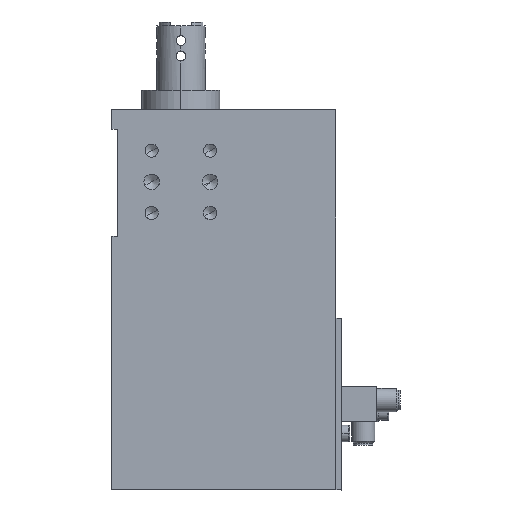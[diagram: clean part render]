
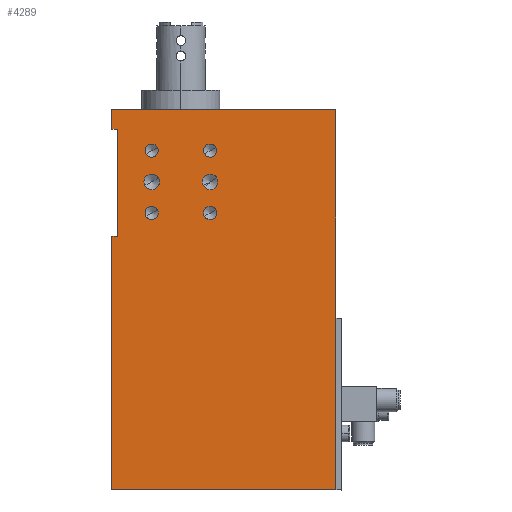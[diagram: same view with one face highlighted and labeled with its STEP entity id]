
A CAD part, top view. The second image highlights one B-rep face of the part: STEP entity #4289.
In plain terms, the highlighted planar face has unit normal (0, 0, 1).
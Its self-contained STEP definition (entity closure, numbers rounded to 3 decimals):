
#1020=CARTESIAN_POINT('Line Origine',(79.5,-151.,22.5)) ;
#1024=CARTESIAN_POINT('Vertex',(79.5,-107.,22.5)) ;
#1026=CARTESIAN_POINT('Vertex',(79.5,-195.,22.5)) ;
#3704=CARTESIAN_POINT('Vertex',(79.5,0.,22.5)) ;
#3707=CARTESIAN_POINT('Line Origine',(79.5,-53.5,22.5)) ;
#3922=CARTESIAN_POINT('Vertex',(-35.5,0.,22.5)) ;
#3925=CARTESIAN_POINT('Line Origine',(22.,0.,22.5)) ;
#4125=CARTESIAN_POINT('Axis2P3D Location',(-35.5,-195.,22.5)) ;
#4130=CARTESIAN_POINT('Line Origine',(-34.,-10.,22.5)) ;
#4134=CARTESIAN_POINT('Vertex',(-35.5,-10.,22.5)) ;
#4136=CARTESIAN_POINT('Vertex',(-32.5,-10.,22.5)) ;
#4139=CARTESIAN_POINT('Line Origine',(-32.5,-37.5,22.5)) ;
#4143=CARTESIAN_POINT('Vertex',(-32.5,-65.,22.5)) ;
#4146=CARTESIAN_POINT('Line Origine',(-34.,-65.,22.5)) ;
#4150=CARTESIAN_POINT('Vertex',(-35.5,-65.,22.5)) ;
#4153=CARTESIAN_POINT('Line Origine',(-35.5,-130.,22.5)) ;
#4157=CARTESIAN_POINT('Vertex',(-35.5,-195.,22.5)) ;
#4160=CARTESIAN_POINT('Line Origine',(22.,-195.,22.5)) ;
#4165=CARTESIAN_POINT('Line Origine',(-35.5,-5.,22.5)) ;
#4181=CARTESIAN_POINT('Axis2P3D Location',(-15.,-21.,22.5)) ;
#4185=CARTESIAN_POINT('Vertex',(-15.,-17.6,22.5)) ;
#4187=CARTESIAN_POINT('Vertex',(-15.,-24.4,22.5)) ;
#4190=CARTESIAN_POINT('Axis2P3D Location',(-15.,-21.,22.5)) ;
#4199=CARTESIAN_POINT('Axis2P3D Location',(-15.,-53.,22.5)) ;
#4203=CARTESIAN_POINT('Vertex',(-15.,-49.6,22.5)) ;
#4205=CARTESIAN_POINT('Vertex',(-15.,-56.4,22.5)) ;
#4208=CARTESIAN_POINT('Axis2P3D Location',(-15.,-53.,22.5)) ;
#4217=CARTESIAN_POINT('Axis2P3D Location',(-15.,-37.,22.5)) ;
#4221=CARTESIAN_POINT('Vertex',(-15.,-33.,22.5)) ;
#4223=CARTESIAN_POINT('Vertex',(-15.,-41.,22.5)) ;
#4226=CARTESIAN_POINT('Axis2P3D Location',(-15.,-37.,22.5)) ;
#4235=CARTESIAN_POINT('Axis2P3D Location',(15.,-21.,22.5)) ;
#4239=CARTESIAN_POINT('Vertex',(15.,-17.6,22.5)) ;
#4241=CARTESIAN_POINT('Vertex',(15.,-24.4,22.5)) ;
#4244=CARTESIAN_POINT('Axis2P3D Location',(15.,-21.,22.5)) ;
#4253=CARTESIAN_POINT('Axis2P3D Location',(15.,-53.,22.5)) ;
#4257=CARTESIAN_POINT('Vertex',(15.,-49.6,22.5)) ;
#4259=CARTESIAN_POINT('Vertex',(15.,-56.4,22.5)) ;
#4262=CARTESIAN_POINT('Axis2P3D Location',(15.,-53.,22.5)) ;
#4271=CARTESIAN_POINT('Axis2P3D Location',(15.,-37.,22.5)) ;
#4275=CARTESIAN_POINT('Vertex',(15.,-33.,22.5)) ;
#4277=CARTESIAN_POINT('Vertex',(15.,-41.,22.5)) ;
#4280=CARTESIAN_POINT('Axis2P3D Location',(15.,-37.,22.5)) ;
#1021=DIRECTION('Vector Direction',(0.,1.,0.)) ;
#3708=DIRECTION('Vector Direction',(0.,1.,0.)) ;
#3926=DIRECTION('Vector Direction',(1.,0.,0.)) ;
#4126=DIRECTION('Axis2P3D Direction',(0.,0.,-1.)) ;
#4127=DIRECTION('Axis2P3D XDirection',(0.,1.,0.)) ;
#4131=DIRECTION('Vector Direction',(1.,0.,0.)) ;
#4140=DIRECTION('Vector Direction',(0.,1.,0.)) ;
#4147=DIRECTION('Vector Direction',(1.,0.,0.)) ;
#4154=DIRECTION('Vector Direction',(0.,1.,0.)) ;
#4161=DIRECTION('Vector Direction',(1.,0.,0.)) ;
#4166=DIRECTION('Vector Direction',(0.,1.,0.)) ;
#4182=DIRECTION('Axis2P3D Direction',(0.,0.,-1.)) ;
#4191=DIRECTION('Axis2P3D Direction',(0.,0.,-1.)) ;
#4200=DIRECTION('Axis2P3D Direction',(0.,0.,-1.)) ;
#4209=DIRECTION('Axis2P3D Direction',(0.,0.,-1.)) ;
#4218=DIRECTION('Axis2P3D Direction',(0.,0.,-1.)) ;
#4227=DIRECTION('Axis2P3D Direction',(0.,0.,-1.)) ;
#4236=DIRECTION('Axis2P3D Direction',(0.,0.,-1.)) ;
#4245=DIRECTION('Axis2P3D Direction',(0.,0.,-1.)) ;
#4254=DIRECTION('Axis2P3D Direction',(0.,0.,-1.)) ;
#4263=DIRECTION('Axis2P3D Direction',(0.,0.,-1.)) ;
#4272=DIRECTION('Axis2P3D Direction',(0.,0.,-1.)) ;
#4281=DIRECTION('Axis2P3D Direction',(0.,0.,-1.)) ;
#4128=AXIS2_PLACEMENT_3D('Plane Axis2P3D',#4125,#4126,#4127) ;
#4183=AXIS2_PLACEMENT_3D('Circle Axis2P3D',#4181,#4182,$) ;
#4192=AXIS2_PLACEMENT_3D('Circle Axis2P3D',#4190,#4191,$) ;
#4201=AXIS2_PLACEMENT_3D('Circle Axis2P3D',#4199,#4200,$) ;
#4210=AXIS2_PLACEMENT_3D('Circle Axis2P3D',#4208,#4209,$) ;
#4219=AXIS2_PLACEMENT_3D('Circle Axis2P3D',#4217,#4218,$) ;
#4228=AXIS2_PLACEMENT_3D('Circle Axis2P3D',#4226,#4227,$) ;
#4237=AXIS2_PLACEMENT_3D('Circle Axis2P3D',#4235,#4236,$) ;
#4246=AXIS2_PLACEMENT_3D('Circle Axis2P3D',#4244,#4245,$) ;
#4255=AXIS2_PLACEMENT_3D('Circle Axis2P3D',#4253,#4254,$) ;
#4264=AXIS2_PLACEMENT_3D('Circle Axis2P3D',#4262,#4263,$) ;
#4273=AXIS2_PLACEMENT_3D('Circle Axis2P3D',#4271,#4272,$) ;
#4282=AXIS2_PLACEMENT_3D('Circle Axis2P3D',#4280,#4281,$) ;
#4171=ORIENTED_EDGE('',*,*,#4138,.T.) ;
#4172=ORIENTED_EDGE('',*,*,#4145,.T.) ;
#4173=ORIENTED_EDGE('',*,*,#4152,.F.) ;
#4174=ORIENTED_EDGE('',*,*,#4159,.T.) ;
#4175=ORIENTED_EDGE('',*,*,#4164,.T.) ;
#4176=ORIENTED_EDGE('',*,*,#1028,.F.) ;
#4177=ORIENTED_EDGE('',*,*,#3711,.F.) ;
#4178=ORIENTED_EDGE('',*,*,#3929,.F.) ;
#4179=ORIENTED_EDGE('',*,*,#4169,.T.) ;
#4196=ORIENTED_EDGE('',*,*,#4189,.F.) ;
#4197=ORIENTED_EDGE('',*,*,#4194,.F.) ;
#4214=ORIENTED_EDGE('',*,*,#4207,.F.) ;
#4215=ORIENTED_EDGE('',*,*,#4212,.F.) ;
#4232=ORIENTED_EDGE('',*,*,#4225,.F.) ;
#4233=ORIENTED_EDGE('',*,*,#4230,.F.) ;
#4250=ORIENTED_EDGE('',*,*,#4243,.F.) ;
#4251=ORIENTED_EDGE('',*,*,#4248,.F.) ;
#4268=ORIENTED_EDGE('',*,*,#4261,.F.) ;
#4269=ORIENTED_EDGE('',*,*,#4266,.F.) ;
#4286=ORIENTED_EDGE('',*,*,#4279,.F.) ;
#4287=ORIENTED_EDGE('',*,*,#4284,.F.) ;
#4198=FACE_BOUND('',#4195,.T.) ;
#4216=FACE_BOUND('',#4213,.T.) ;
#4234=FACE_BOUND('',#4231,.T.) ;
#4252=FACE_BOUND('',#4249,.T.) ;
#4270=FACE_BOUND('',#4267,.T.) ;
#4288=FACE_BOUND('',#4285,.T.) ;
#1022=VECTOR('Line Direction',#1021,1.) ;
#3709=VECTOR('Line Direction',#3708,1.) ;
#3927=VECTOR('Line Direction',#3926,1.) ;
#4132=VECTOR('Line Direction',#4131,1.) ;
#4141=VECTOR('Line Direction',#4140,1.) ;
#4148=VECTOR('Line Direction',#4147,1.) ;
#4155=VECTOR('Line Direction',#4154,1.) ;
#4162=VECTOR('Line Direction',#4161,1.) ;
#4167=VECTOR('Line Direction',#4166,1.) ;
#4289=ADVANCED_FACE('PartBody',(#4180,#4198,#4216,#4234,#4252,#4270,#4288),#4129,.F.) ;
#4184=CIRCLE('generated circle',#4183,3.4) ;
#4193=CIRCLE('generated circle',#4192,3.4) ;
#4202=CIRCLE('generated circle',#4201,3.4) ;
#4211=CIRCLE('generated circle',#4210,3.4) ;
#4220=CIRCLE('generated circle',#4219,4.) ;
#4229=CIRCLE('generated circle',#4228,4.) ;
#4238=CIRCLE('generated circle',#4237,3.4) ;
#4247=CIRCLE('generated circle',#4246,3.4) ;
#4256=CIRCLE('generated circle',#4255,3.4) ;
#4265=CIRCLE('generated circle',#4264,3.4) ;
#4274=CIRCLE('generated circle',#4273,4.) ;
#4283=CIRCLE('generated circle',#4282,4.) ;
#1028=EDGE_CURVE('',#1025,#1027,#1023,.F.) ;
#3711=EDGE_CURVE('',#3705,#1025,#3710,.F.) ;
#3929=EDGE_CURVE('',#3923,#3705,#3928,.T.) ;
#4138=EDGE_CURVE('',#4135,#4137,#4133,.T.) ;
#4145=EDGE_CURVE('',#4137,#4144,#4142,.F.) ;
#4152=EDGE_CURVE('',#4151,#4144,#4149,.T.) ;
#4159=EDGE_CURVE('',#4151,#4158,#4156,.F.) ;
#4164=EDGE_CURVE('',#4158,#1027,#4163,.T.) ;
#4169=EDGE_CURVE('',#3923,#4135,#4168,.F.) ;
#4189=EDGE_CURVE('',#4186,#4188,#4184,.F.) ;
#4194=EDGE_CURVE('',#4188,#4186,#4193,.F.) ;
#4207=EDGE_CURVE('',#4204,#4206,#4202,.F.) ;
#4212=EDGE_CURVE('',#4206,#4204,#4211,.F.) ;
#4225=EDGE_CURVE('',#4222,#4224,#4220,.F.) ;
#4230=EDGE_CURVE('',#4224,#4222,#4229,.F.) ;
#4243=EDGE_CURVE('',#4240,#4242,#4238,.F.) ;
#4248=EDGE_CURVE('',#4242,#4240,#4247,.F.) ;
#4261=EDGE_CURVE('',#4258,#4260,#4256,.F.) ;
#4266=EDGE_CURVE('',#4260,#4258,#4265,.F.) ;
#4279=EDGE_CURVE('',#4276,#4278,#4274,.F.) ;
#4284=EDGE_CURVE('',#4278,#4276,#4283,.F.) ;
#4170=EDGE_LOOP('',(#4171,#4172,#4173,#4174,#4175,#4176,#4177,#4178,#4179)) ;
#4195=EDGE_LOOP('',(#4196,#4197)) ;
#4213=EDGE_LOOP('',(#4214,#4215)) ;
#4231=EDGE_LOOP('',(#4232,#4233)) ;
#4249=EDGE_LOOP('',(#4250,#4251)) ;
#4267=EDGE_LOOP('',(#4268,#4269)) ;
#4285=EDGE_LOOP('',(#4286,#4287)) ;
#4180=FACE_OUTER_BOUND('',#4170,.T.) ;
#1023=LINE('Line',#1020,#1022) ;
#3710=LINE('Line',#3707,#3709) ;
#3928=LINE('Line',#3925,#3927) ;
#4133=LINE('Line',#4130,#4132) ;
#4142=LINE('Line',#4139,#4141) ;
#4149=LINE('Line',#4146,#4148) ;
#4156=LINE('Line',#4153,#4155) ;
#4163=LINE('Line',#4160,#4162) ;
#4168=LINE('Line',#4165,#4167) ;
#4129=PLANE('Plane',#4128) ;
#1025=VERTEX_POINT('',#1024) ;
#1027=VERTEX_POINT('',#1026) ;
#3705=VERTEX_POINT('',#3704) ;
#3923=VERTEX_POINT('',#3922) ;
#4135=VERTEX_POINT('',#4134) ;
#4137=VERTEX_POINT('',#4136) ;
#4144=VERTEX_POINT('',#4143) ;
#4151=VERTEX_POINT('',#4150) ;
#4158=VERTEX_POINT('',#4157) ;
#4186=VERTEX_POINT('',#4185) ;
#4188=VERTEX_POINT('',#4187) ;
#4204=VERTEX_POINT('',#4203) ;
#4206=VERTEX_POINT('',#4205) ;
#4222=VERTEX_POINT('',#4221) ;
#4224=VERTEX_POINT('',#4223) ;
#4240=VERTEX_POINT('',#4239) ;
#4242=VERTEX_POINT('',#4241) ;
#4258=VERTEX_POINT('',#4257) ;
#4260=VERTEX_POINT('',#4259) ;
#4276=VERTEX_POINT('',#4275) ;
#4278=VERTEX_POINT('',#4277) ;
